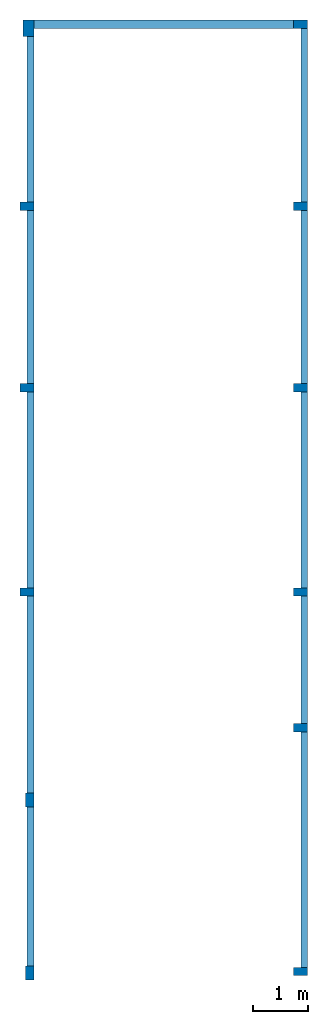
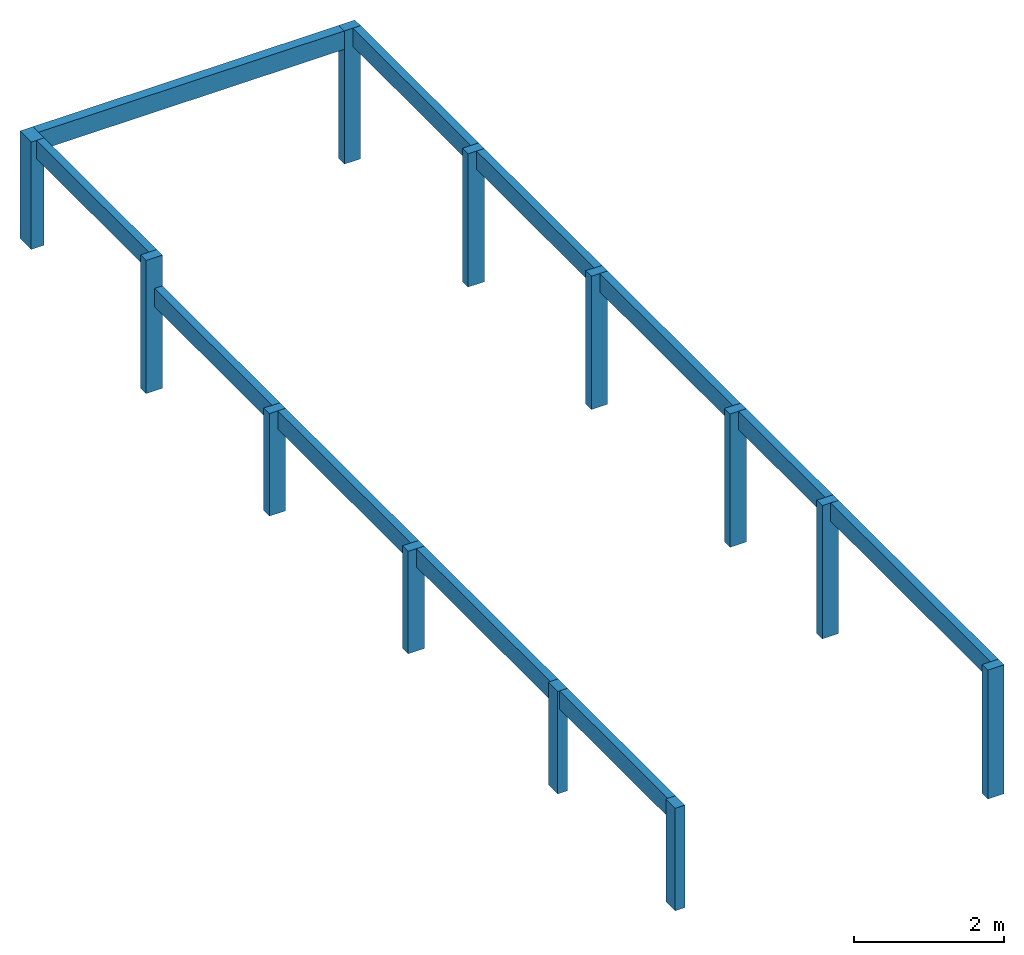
# One storey: 12 columns, 11 beams.
"""IFC4 building model written with IfcOpenShell, lengths in centimetres."""

from ifc_helpers import new_model, si_unit, derived_unit, frame, origin_with_axes, origin_2d_with_axis, place, context, project, spatial, rectangle, extrude, material, element, save


model = new_model("IFC4")

# Units and contexts
model_context = context("Model", 3, precision=1e-05, world=origin_with_axes(), identifier="Body")
ifc_project = project(units=[si_unit("LENGTHUNIT", "METRE", prefix="CENTI"), si_unit("VOLUMEUNIT", "CUBIC_METRE"), si_unit("AREAUNIT", "SQUARE_METRE"), si_unit("POWERUNIT", "WATT"), si_unit("LUMINOUSFLUXUNIT", "LUMEN"), si_unit("ELECTRICCURRENTUNIT", "AMPERE"), si_unit("PRESSUREUNIT", "PASCAL", prefix="KILO"), si_unit("MASSUNIT", "GRAM", prefix="KILO"), si_unit("PLANEANGLEUNIT", "RADIAN"), derived_unit("VOLUMETRICFLOWRATEUNIT", [(si_unit("LENGTHUNIT", "METRE"), 3), (si_unit("TIMEUNIT", "SECOND"), -1)])], contexts=[model_context])

# Site, building, storey
site_placement = place(None, origin_with_axes())
site = spatial("IfcSite", under=ifc_project, at=site_placement)
building_placement = place(site_placement, frame((0.0, 0.0, -295.0)))
building = spatial("IfcBuilding", under=site, at=building_placement)
placement_1 = place(building_placement, origin_with_axes())
placement_2 = place(placement_1, frame((0.0, 0.0, 101.0), z_axis=(0.0, 0.0, 1.0), x_axis=(1.0, 0.0, 0.0)))
placement_3 = place(placement_2, frame((0.0, 0.0, 204.0), z_axis=(0.0, 0.0, 1.0), x_axis=(1.0, 0.0, 0.0)))
placement_4 = place(placement_3, frame((0.0, 0.0, 292.0), z_axis=(0.0, 0.0, 1.0), x_axis=(1.0, 0.0, 0.0)))
placement_5 = place(placement_4, frame((0.0, 0.0, 302.0), z_axis=(0.0, 0.0, 1.0), x_axis=(1.0, 0.0, 0.0)))
placement_6 = place(placement_5, frame((0.0, 0.0, 326.0), z_axis=(0.0, 0.0, 1.0), x_axis=(1.0, 0.0, 0.0)))
placement_7 = place(placement_6, frame((0.0, 0.0, 124.0), z_axis=(0.0, 0.0, 1.0), x_axis=(1.0, 0.0, 0.0)))
storey_placement = place(placement_7, frame((0.0, 0.0, 175.0), z_axis=(0.0, 0.0, 1.0), x_axis=(1.0, 0.0, 0.0)))
storey = spatial("IfcBuildingStorey", under=building, at=storey_placement, Name="TELHADO ANEXO", CompositionType="ELEMENT", Elevation=1229.0)

# Columns
ifc_material = material(Name="Concreto")
column_1_placement = place(storey_placement, frame((4004.26, -5112.05, 0.0), z_axis=(0.0, 0.0, 1.0), x_axis=(1.0, 0.0, 0.0)))
element("IfcColumn", 1, at=column_1_placement, inside=storey, material=ifc_material, Name="P10", context=model_context, shape_type="SolidModel", body=[
    extrude(rectangle(XDim=15.0, YDim=25.0, at=origin_2d_with_axis()), frame((0.0, 0.0, 0.0), z_axis=(0.0, 0.0, 1.0), x_axis=(0.0, 1.0, 0.0)), (0.0, 0.0, -1.0), 217.0),
])
for number, where, z_axis, x_axis, name in (
    (2, (3508.21, -5442.19, 0.0), (0.0, 0.0, 1.0), (1.0, 0.0, 0.0), "P18"),
    (3, (4004.24, -5442.19, 0.0), (0.0, 0.0, 1.0), (1.0, 0.0, 0.0), "P19"),
):
    element("IfcColumn", number, at=place(storey_placement, frame(where, z_axis=z_axis, x_axis=x_axis)), inside=storey, material=ifc_material, Name=name, context=model_context, shape_type="SolidModel", body=[
        extrude(rectangle(XDim=15.0, YDim=25.0, at=origin_2d_with_axis()), frame((0.0, 0.0, 0.0), z_axis=(0.0, 0.0, 1.0), x_axis=(0.0, -1.0, 0.0)), (0.0, 0.0, -1.0), 217.0),
    ])
column_2_placement = place(storey_placement, frame((3508.23, -5771.05, -50.0), z_axis=(0.0, 0.0, 1.0), x_axis=(1.0, 0.0, 0.0)))
element("IfcColumn", 4, at=column_2_placement, inside=storey, material=ifc_material, Name="P25", context=model_context, shape_type="SolidModel", body=[
    extrude(rectangle(XDim=15.0, YDim=25.0, at=origin_2d_with_axis()), frame((0.0, 0.0, 0.0), z_axis=(0.0, 0.0, 1.0), x_axis=(0.0, -1.0, 0.0)), (0.0, 0.0, -1.0), 167.0),
])
column_3_placement = place(storey_placement, frame((4004.26, -5771.05, 0.0), z_axis=(0.0, 0.0, 1.0), x_axis=(1.0, 0.0, 0.0)))
element("IfcColumn", 5, at=column_3_placement, inside=storey, material=ifc_material, Name="P26", context=model_context, shape_type="SolidModel", body=[
    extrude(rectangle(XDim=15.0, YDim=25.0, at=origin_2d_with_axis()), frame((0.0, 0.0, 0.0), z_axis=(0.0, 0.0, 1.0), x_axis=(0.0, -1.0, 0.0)), (0.0, 0.0, -1.0), 217.0),
])
column_4_placement = place(storey_placement, frame((3508.23, -6141.05, -50.0), z_axis=(0.0, 0.0, 1.0), x_axis=(1.0, 0.0, 0.0)))
element("IfcColumn", 6, at=column_4_placement, inside=storey, material=ifc_material, Name="P30", context=model_context, shape_type="SolidModel", body=[
    extrude(rectangle(XDim=15.0, YDim=25.0, at=origin_2d_with_axis()), frame((0.0, 0.0, 0.0), z_axis=(0.0, 0.0, 1.0), x_axis=(0.0, -1.0, 0.0)), (0.0, 0.0, -1.0), 167.0),
])
for number, where, z_axis, x_axis, name in (
    (7, (4004.26, -6141.05, 0.0), (0.0, 0.0, 1.0), (1.0, 0.0, 0.0), "P31"),
    (8, (4004.26, -6387.15, 0.0), (0.0, 0.0, 1.0), (1.0, 0.0, 0.0), "P34"),
):
    element("IfcColumn", number, at=place(storey_placement, frame(where, z_axis=z_axis, x_axis=x_axis)), inside=storey, material=ifc_material, Name=name, context=model_context, shape_type="SolidModel", body=[
        extrude(rectangle(XDim=15.0, YDim=25.0, at=origin_2d_with_axis()), frame((0.0, 0.0, 0.0), z_axis=(0.0, 0.0, 1.0), x_axis=(0.0, -1.0, 0.0)), (0.0, 0.0, -1.0), 217.0),
    ])
for number, where, z_axis, x_axis, name in (
    (9, (3513.23, -6518.05, -50.0), (0.0, 0.0, 1.0), (1.0, 0.0, 0.0), "P37"),
    (10, (3513.23, -6831.7, -50.0), (0.0, 0.0, 1.0), (1.0, 0.0, 0.0), "P47"),
):
    element("IfcColumn", number, at=place(storey_placement, frame(where, z_axis=z_axis, x_axis=x_axis)), inside=storey, material=ifc_material, Name=name, context=model_context, shape_type="SolidModel", body=[
        extrude(rectangle(XDim=15.0, YDim=25.0, at=origin_2d_with_axis()), origin_with_axes(), (0.0, 0.0, -1.0), 167.0),
    ])
column_5_placement = place(storey_placement, frame((4004.25, -6828.79, 0.0), z_axis=(0.0, 0.0, 1.0), x_axis=(1.0, 0.0, 0.0)))
element("IfcColumn", 11, at=column_5_placement, inside=storey, material=ifc_material, Name="P49", context=model_context, shape_type="SolidModel", body=[
    extrude(rectangle(XDim=15.0, YDim=25.0, at=origin_2d_with_axis()), frame((0.0, 0.0, 0.0), z_axis=(0.0, 0.0, 1.0), x_axis=(0.0, 1.0, 0.0)), (0.0, 0.0, -1.0), 210.0),
])
column_6_placement = place(storey_placement, frame((3510.73, -5119.55, 0.0), z_axis=(0.0, 0.0, 1.0), x_axis=(1.0, 0.0, 0.0)))
element("IfcColumn", 12, at=column_6_placement, inside=storey, material=ifc_material, Name="P9", context=model_context, shape_type="SolidModel", body=[
    extrude(rectangle(XDim=20.0, YDim=30.0, at=origin_2d_with_axis()), frame((0.0, 0.0, 0.0), z_axis=(0.0, 0.0, 1.0), x_axis=(-1.0, 0.0, 0.0)), (0.0, 0.0, -1.0), 175.0),
])

# Beams
beam_1_placement = place(storey_placement, frame((3756.245, -5112.05, 0.0), z_axis=(0.0, 0.0, 1.0), x_axis=(1.0, 0.0, 0.0)))
element("IfcBeam", 13, at=beam_1_placement, inside=storey, material=ifc_material, Name="V501", context=model_context, shape_type="SolidModel", body=[
    extrude(rectangle(XDim=15.0, YDim=30.0, at=origin_2d_with_axis()), frame((-235.515, 0.0, -15.0), z_axis=(1.0, 0.0, 0.0), x_axis=(0.0, -1.0, 0.0)), (0.0, 0.0, 1.0), 471.03),
])
beam_2_placement = place(storey_placement, frame((3514.73, -6674.875, -50.0), z_axis=(0.0, 0.0, 1.0), x_axis=(1.0, 0.0, 0.0)))
element("IfcBeam", 14, at=beam_2_placement, inside=storey, material=ifc_material, Name="V502", context=model_context, shape_type="SolidModel", body=[
    extrude(rectangle(XDim=12.0, YDim=30.0, at=origin_2d_with_axis()), frame((0.0, -144.325, -15.0), z_axis=(0.0, 1.0, 0.0), x_axis=(1.0, 0.0, 0.0)), (0.0, 0.0, 1.0), 288.65),
])
beam_3_placement = place(storey_placement, frame((3514.73, -6327.05, -50.0), z_axis=(0.0, 0.0, 1.0), x_axis=(1.0, 0.0, 0.0)))
element("IfcBeam", 15, at=beam_3_placement, inside=storey, material=ifc_material, Name="V502", context=model_context, shape_type="SolidModel", body=[
    extrude(rectangle(XDim=12.0, YDim=30.0, at=origin_2d_with_axis()), frame((0.0, -178.5, -15.0), z_axis=(0.0, 1.0, 0.0), x_axis=(1.0, 0.0, 0.0)), (0.0, 0.0, 1.0), 357.0),
])
beam_4_placement = place(storey_placement, frame((3514.73, -5956.05, -50.0), z_axis=(0.0, 0.0, 1.0), x_axis=(1.0, 0.0, 0.0)))
element("IfcBeam", 16, at=beam_4_placement, inside=storey, material=ifc_material, Name="V502", context=model_context, shape_type="SolidModel", body=[
    extrude(rectangle(XDim=12.0, YDim=30.0, at=origin_2d_with_axis()), frame((0.0, -177.5, -15.0), z_axis=(0.0, 1.0, 0.0), x_axis=(1.0, 0.0, 0.0)), (0.0, 0.0, 1.0), 355.0),
])
beam_5_placement = place(storey_placement, frame((3514.73, -5606.62, -50.0), z_axis=(0.0, 0.0, 1.0), x_axis=(1.0, 0.0, 0.0)))
element("IfcBeam", 17, at=beam_5_placement, inside=storey, material=ifc_material, Name="V502", context=model_context, shape_type="SolidModel", body=[
    extrude(rectangle(XDim=12.0, YDim=30.0, at=origin_2d_with_axis()), frame((0.0, -156.93, -15.0), z_axis=(0.0, 1.0, 0.0), x_axis=(1.0, 0.0, 0.0)), (0.0, 0.0, 1.0), 313.86),
])
beam_6_placement = place(storey_placement, frame((3514.73, -5284.62, 0.0), z_axis=(0.0, 0.0, 1.0), x_axis=(1.0, 0.0, 0.0)))
element("IfcBeam", 18, at=beam_6_placement, inside=storey, material=ifc_material, Name="V503", context=model_context, shape_type="SolidModel", body=[
    extrude(rectangle(XDim=12.0, YDim=30.0, at=origin_2d_with_axis()), frame((0.0, -150.07, -15.0), z_axis=(0.0, 1.0, 0.0), x_axis=(1.0, 0.0, 0.0)), (0.0, 0.0, 1.0), 300.14),
])
beam_7_placement = place(storey_placement, frame((4010.76, -5277.12, 0.0), z_axis=(0.0, 0.0, 1.0), x_axis=(1.0, 0.0, 0.0)))
element("IfcBeam", 19, at=beam_7_placement, inside=storey, material=ifc_material, Name="V504", context=model_context, shape_type="SolidModel", body=[
    extrude(rectangle(XDim=12.0, YDim=30.0, at=origin_2d_with_axis()), frame((0.0, -157.57, -15.0), z_axis=(0.0, 1.0, 0.0), x_axis=(1.0, 0.0, 0.0)), (0.0, 0.0, 1.0), 315.14),
])
beam_8_placement = place(storey_placement, frame((4010.76, -5606.62, 0.0), z_axis=(0.0, 0.0, 1.0), x_axis=(1.0, 0.0, 0.0)))
element("IfcBeam", 20, at=beam_8_placement, inside=storey, material=ifc_material, Name="V504", context=model_context, shape_type="SolidModel", body=[
    extrude(rectangle(XDim=12.0, YDim=30.0, at=origin_2d_with_axis()), frame((0.0, -156.93, -15.0), z_axis=(0.0, 1.0, 0.0), x_axis=(1.0, 0.0, 0.0)), (0.0, 0.0, 1.0), 313.86),
])
beam_9_placement = place(storey_placement, frame((4010.76, -5956.05, 0.0), z_axis=(0.0, 0.0, 1.0), x_axis=(1.0, 0.0, 0.0)))
element("IfcBeam", 21, at=beam_9_placement, inside=storey, material=ifc_material, Name="V504", context=model_context, shape_type="SolidModel", body=[
    extrude(rectangle(XDim=12.0, YDim=30.0, at=origin_2d_with_axis()), frame((0.0, -177.5, -15.0), z_axis=(0.0, 1.0, 0.0), x_axis=(1.0, 0.0, 0.0)), (0.0, 0.0, 1.0), 355.0),
])
beam_10_placement = place(storey_placement, frame((4010.76, -6264.1, 0.0), z_axis=(0.0, 0.0, 1.0), x_axis=(1.0, 0.0, 0.0)))
element("IfcBeam", 22, at=beam_10_placement, inside=storey, material=ifc_material, Name="V504", context=model_context, shape_type="SolidModel", body=[
    extrude(rectangle(XDim=12.0, YDim=30.0, at=origin_2d_with_axis()), frame((0.0, -115.55, -15.0), z_axis=(0.0, 1.0, 0.0), x_axis=(1.0, 0.0, 0.0)), (0.0, 0.0, 1.0), 231.1),
])
beam_11_placement = place(storey_placement, frame((4010.76, -6607.97, 0.0), z_axis=(0.0, 0.0, 1.0), x_axis=(1.0, 0.0, 0.0)))
element("IfcBeam", 23, at=beam_11_placement, inside=storey, material=ifc_material, Name="V504", context=model_context, shape_type="SolidModel", body=[
    extrude(rectangle(XDim=12.0, YDim=30.0, at=origin_2d_with_axis()), frame((0.0, -213.32, -15.0), z_axis=(0.0, 1.0, 0.0), x_axis=(1.0, 0.0, 0.0)), (0.0, 0.0, 1.0), 426.64),
])

save(model, "model.ifc")
